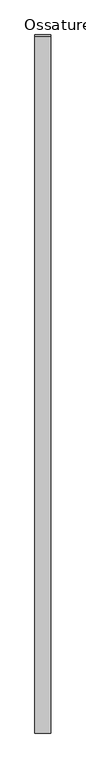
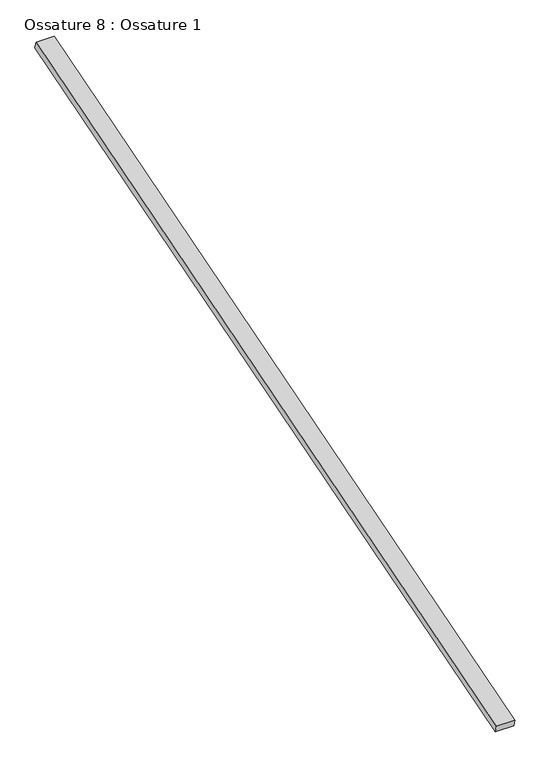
"""IFC4 building model written with IfcOpenShell, lengths in millimetres: beam geometry, Ossature 8 : Ossature 1."""

from ifc_helpers import new_model, si_unit, frame, origin, place, context, project, spatial, polyline, outline, extrude, source, transform, mapped, element, save


def ossature_8_ossature_1_a3007991(model_context):
    return source(origin(), model_context, "Body", "SweptSolid", [
        extrude(outline(polyline([(0.0, 0.0), (0.0, -4543.0299679), (-100.0, -4543.0299679), (-100.0, 0.0), (0.0, 0.0)])), frame((2218.0466393, -833.3913565, 8153.6336115), z_axis=(0.0, -0.28734788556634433, 0.9578262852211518), x_axis=(-1.0, 0.0, 0.0)), (0.0, 0.0, 1.0), 40.0),
    ])


if __name__ == "__main__":
    model = new_model("IFC4")
    model_context = context("Model", 3, world=origin())
    ifc_project = project(units=[si_unit("LENGTHUNIT", "METRE", prefix="MILLI")], contexts=[model_context])
    site = spatial("IfcSite", under=ifc_project)
    building = spatial("IfcBuilding", under=site)
    placement = place(None, origin())
    ossature_8_ossature_1_shape = ossature_8_ossature_1_a3007991(model_context)
    element("IfcBeam", 1, ObjectType="Ossature 8 : Ossature 1", at=placement, inside=building, context=model_context, shape_type="MappedRepresentation", body=[
        mapped(ossature_8_ossature_1_shape, transform((0.0, 0.0, 0.0), x_axis=(1.0, 0.0, 0.0), y_axis=(0.0, 1.0, 0.0), z_axis=(0.0, 0.0, 1.0))),
    ])
    save(model, "model.ifc")
